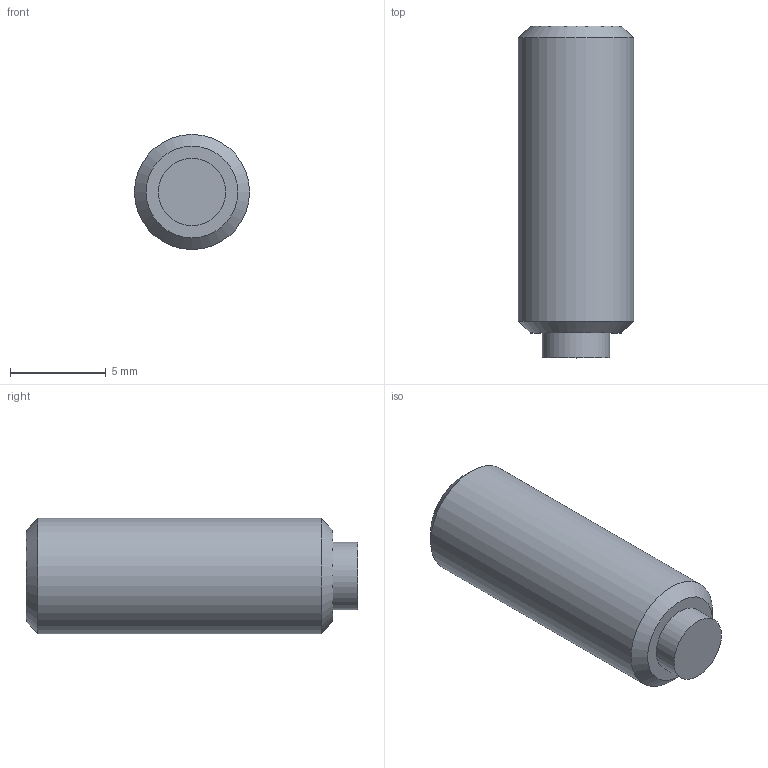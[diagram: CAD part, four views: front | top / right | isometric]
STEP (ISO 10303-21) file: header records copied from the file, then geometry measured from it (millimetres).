
FILE_DESCRIPTION( ( 'STEP AP203' ), '1' );
FILE_NAME( 'C:/Temp/Ganter_Step_05_03_2020/data/3_2/gn913_3/Grub screw GN 913.3-M6-16-KU.stp', '2020-03-13T05:35:36', ( 'License CC BY-ND 4.0' ), ( 'CADENAS' ), ' ', 'PARTsolutions', ' ' );
FILE_SCHEMA( ( 'CONFIG_CONTROL_DESIGN' ) );
Length unit declared in the file: millimetre
Products named in the file (1): _Grub screw GN 913.3-M6-16-KU
Bounding box: 6 x 17.3 x 6 mm (x, y, z)
Volume: 431 mm3; surface area: 394.3 mm2
Topology: 1 solids, 1 shells, 14 faces, 28 edges, 18 vertices
Faces by surface type: plane 10, cylinder 2, cone 2
Full cylindrical faces by diameter (mm): 3.5 x1, 6 x1
Entity records: 386 total; most frequent: DIRECTION 60, CARTESIAN_POINT 57, ORIENTED_EDGE 48, EDGE_CURVE 24, AXIS2_PLACEMENT_3D 21, EDGE_LOOP 20, VERTEX_POINT 18, LINE 18
